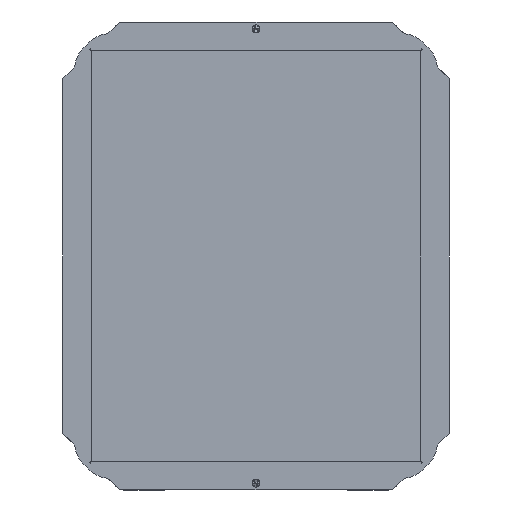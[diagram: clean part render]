
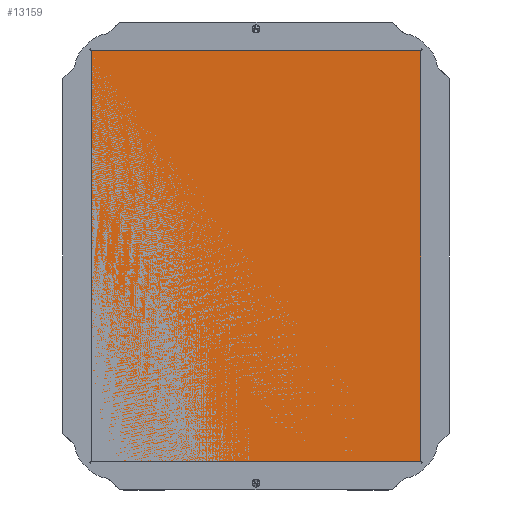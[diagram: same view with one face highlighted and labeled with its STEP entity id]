
A CAD part, front view. The second image highlights one B-rep face of the part: STEP entity #13159.
In plain terms, the highlighted planar face has unit normal (0, -1, 0).
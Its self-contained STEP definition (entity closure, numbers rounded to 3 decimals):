
#4117=ORIENTED_EDGE('',*,*,#6472,.T.);
#4118=ORIENTED_EDGE('',*,*,#6471,.T.);
#4119=ORIENTED_EDGE('',*,*,#6470,.T.);
#4120=ORIENTED_EDGE('',*,*,#6473,.T.);
#6470=EDGE_CURVE('',#7914,#7915,#9041,.T.);
#6471=EDGE_CURVE('',#7916,#7914,#9042,.T.);
#6472=EDGE_CURVE('',#7917,#7916,#9043,.T.);
#6473=EDGE_CURVE('',#7915,#7917,#9044,.T.);
#7914=VERTEX_POINT('',#24124);
#7915=VERTEX_POINT('',#24125);
#7916=VERTEX_POINT('',#24127);
#7917=VERTEX_POINT('',#24129);
#9041=LINE('',#24123,#10207);
#9042=LINE('',#24126,#10208);
#9043=LINE('',#24128,#10209);
#9044=LINE('',#24130,#10210);
#10207=VECTOR('',#16511,1000.);
#10208=VECTOR('',#16512,1000.);
#10209=VECTOR('',#16513,1000.);
#10210=VECTOR('',#16514,1000.);
#11189=EDGE_LOOP('',(#4117,#4118,#4119,#4120));
#12032=FACE_BOUND('',#11189,.T.);
#12508=PLANE('',#14103);
#13159=ADVANCED_FACE('',(#12032),#12508,.T.);
#14103=AXIS2_PLACEMENT_3D('',#24233,#16592,#16593);
#16511=DIRECTION('',(0.,0.,1.));
#16512=DIRECTION('',(1.,0.,0.));
#16513=DIRECTION('',(0.,0.,-1.));
#16514=DIRECTION('',(-1.,0.,0.));
#16592=DIRECTION('',(0.,-1.,0.));
#16593=DIRECTION('',(0.,0.,-1.));
#24123=CARTESIAN_POINT('',(102.819,0.,-128.219));
#24124=CARTESIAN_POINT('',(102.819,0.,-128.219));
#24125=CARTESIAN_POINT('',(102.819,0.,128.219));
#24126=CARTESIAN_POINT('',(-102.819,0.,-128.219));
#24127=CARTESIAN_POINT('',(-102.819,0.,-128.219));
#24128=CARTESIAN_POINT('',(-102.819,0.,128.219));
#24129=CARTESIAN_POINT('',(-102.819,0.,128.219));
#24130=CARTESIAN_POINT('',(-102.819,0.,128.219));
#24233=CARTESIAN_POINT('',(-102.819,0.,-128.219));
